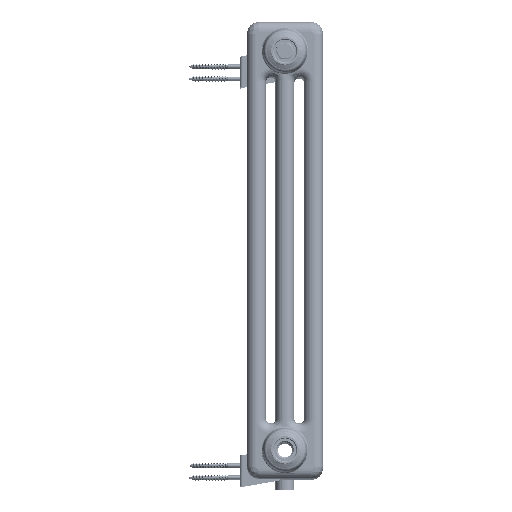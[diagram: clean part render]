
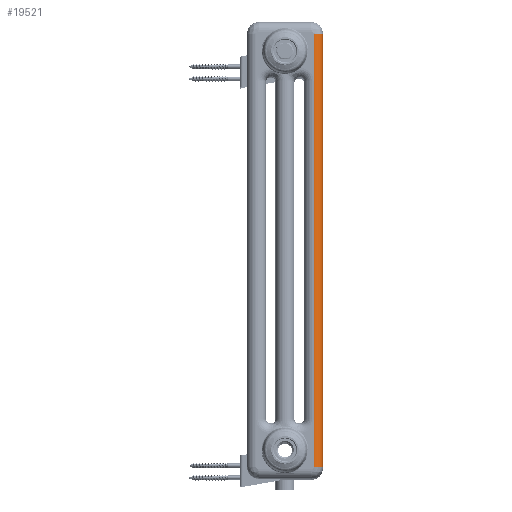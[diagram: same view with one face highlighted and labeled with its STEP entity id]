
A CAD part, top view. The second image highlights one B-rep face of the part: STEP entity #19521.
In plain terms, the highlighted cylindrical face has radius 12.5 mm (diameter 25 mm), a partial arc.
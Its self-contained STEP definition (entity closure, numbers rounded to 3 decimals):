
#11401=CIRCLE('',#117525,12.5);
#11425=CIRCLE('',#117562,12.5);
#19521=ADVANCED_FACE('',(#27964),#21696,.T.);
#21696=CYLINDRICAL_SURFACE('',#117563,12.5);
#27964=FACE_OUTER_BOUND('',#35067,.T.);
#35067=EDGE_LOOP('',(#71965,#71966,#71967,#71968,#71969,#71970,#71971,#71972));
#38989=LINE('',#382917,#42538);
#38990=LINE('',#382940,#42539);
#38999=LINE('',#383019,#42548);
#39000=LINE('',#383020,#42549);
#39001=LINE('',#383022,#42550);
#39002=LINE('',#383026,#42551);
#42538=VECTOR('',#142622,1.);
#42539=VECTOR('',#142631,1.);
#42548=VECTOR('',#142708,1.);
#42549=VECTOR('',#142709,1.);
#42550=VECTOR('',#142712,1.);
#42551=VECTOR('',#142715,1.);
#71965=ORIENTED_EDGE('',*,*,#99991,.F.);
#71966=ORIENTED_EDGE('',*,*,#99992,.F.);
#71967=ORIENTED_EDGE('',*,*,#99993,.F.);
#71968=ORIENTED_EDGE('',*,*,#99990,.T.);
#71969=ORIENTED_EDGE('',*,*,#99958,.T.);
#71970=ORIENTED_EDGE('',*,*,#99956,.T.);
#71971=ORIENTED_EDGE('',*,*,#99954,.T.);
#71972=ORIENTED_EDGE('',*,*,#99989,.T.);
#84319=VERTEX_POINT('',#382910);
#84320=VERTEX_POINT('',#382914);
#84321=VERTEX_POINT('',#382918);
#84322=VERTEX_POINT('',#382922);
#84341=VERTEX_POINT('',#383016);
#84342=VERTEX_POINT('',#383018);
#84343=VERTEX_POINT('',#383023);
#84344=VERTEX_POINT('',#383025);
#99954=EDGE_CURVE('',#84321,#84319,#38989,.T.);
#99956=EDGE_CURVE('',#84322,#84321,#11401,.T.);
#99958=EDGE_CURVE('',#84320,#84322,#38990,.T.);
#99989=EDGE_CURVE('',#84319,#84342,#38999,.T.);
#99990=EDGE_CURVE('',#84341,#84320,#39000,.T.);
#99991=EDGE_CURVE('',#84343,#84342,#39001,.T.);
#99992=EDGE_CURVE('',#84344,#84343,#11425,.T.);
#99993=EDGE_CURVE('',#84341,#84344,#39002,.T.);
#117525=AXIS2_PLACEMENT_3D('',#382921,#142627,#142628);
#117562=AXIS2_PLACEMENT_3D('',#383024,#142713,#142714);
#117563=AXIS2_PLACEMENT_3D('',#383027,#142716,#142717);
#142622=DIRECTION('',(0.,1.,0.));
#142627=DIRECTION('',(0.,1.,0.));
#142628=DIRECTION('',(0.,0.,1.));
#142631=DIRECTION('',(0.,-1.,0.));
#142708=DIRECTION('',(0.,1.,0.));
#142709=DIRECTION('',(0.,-1.,0.));
#142712=DIRECTION('',(0.,-1.,0.));
#142713=DIRECTION('',(0.,1.,0.));
#142714=DIRECTION('',(0.,0.,1.));
#142715=DIRECTION('',(0.,1.,0.));
#142716=DIRECTION('',(0.,-1.,0.));
#142717=DIRECTION('',(0.,0.,1.));
#382910=CARTESIAN_POINT('',(87.5,78.,100.));
#382914=CARTESIAN_POINT('',(87.5,78.,125.));
#382917=CARTESIAN_POINT('',(87.5,15.5,100.));
#382918=CARTESIAN_POINT('',(87.5,15.5,100.));
#382921=CARTESIAN_POINT('',(87.5,15.5,112.5));
#382922=CARTESIAN_POINT('',(87.5,15.5,125.));
#382940=CARTESIAN_POINT('',(87.5,78.,125.));
#383016=CARTESIAN_POINT('',(87.5,522.,125.));
#383018=CARTESIAN_POINT('',(87.5,522.,100.));
#383019=CARTESIAN_POINT('',(87.5,78.,100.));
#383020=CARTESIAN_POINT('',(87.5,522.,125.));
#383022=CARTESIAN_POINT('',(87.5,584.5,100.));
#383023=CARTESIAN_POINT('',(87.5,584.5,100.));
#383024=CARTESIAN_POINT('',(87.5,584.5,112.5));
#383025=CARTESIAN_POINT('',(87.5,584.5,125.));
#383026=CARTESIAN_POINT('',(87.5,522.,125.));
#383027=CARTESIAN_POINT('',(87.5,584.5,112.5));
